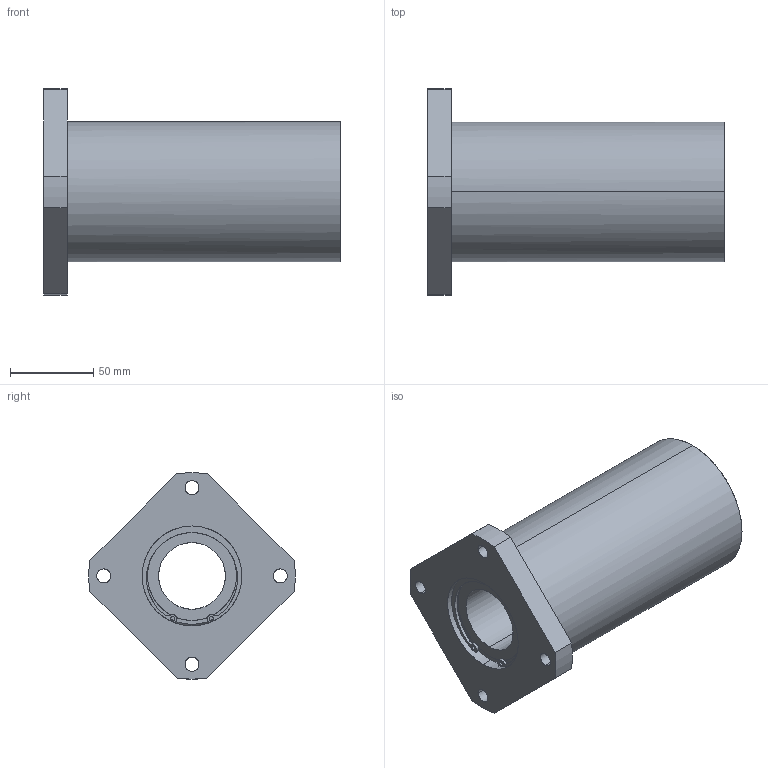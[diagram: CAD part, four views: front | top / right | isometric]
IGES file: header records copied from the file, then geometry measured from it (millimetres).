
Global section: file name: No Iges File Name specified; native system: AutoDesk Inventor R11.0; preprocessor: AutoDesk Inventor Iges Exporter R11.0; author: No Author specified; organization: No Organization specified; date: 20170921.175325; units: millimetre
Bounding box: 178 x 123.84 x 123.92 mm (x, y, z)
Surface area: 94074.5 mm2 (no closed solid volume)
Topology: 0 solids, 0 shells, 92 faces, 680 edges, 680 vertices
Faces by surface type: bspline 92
